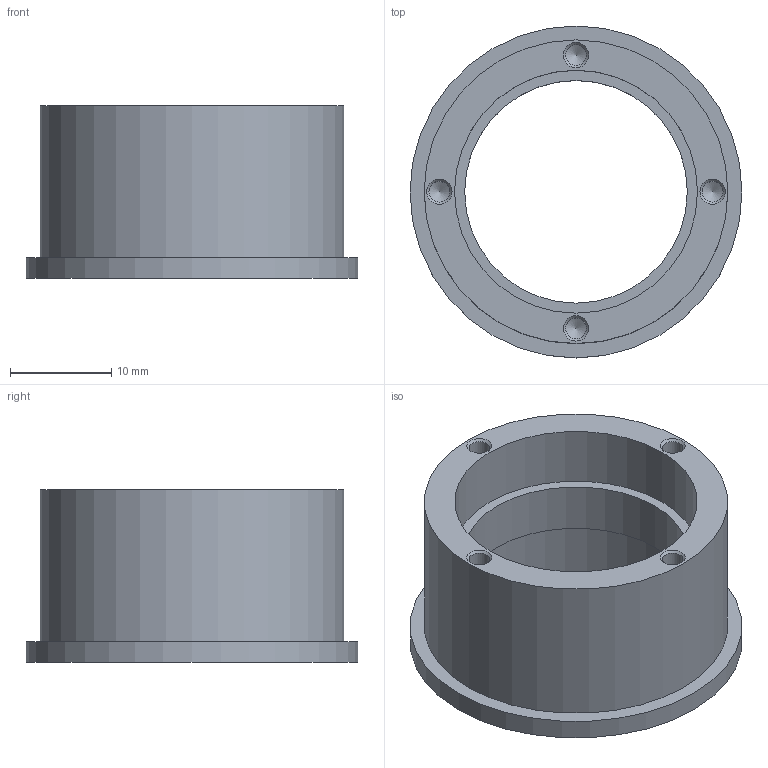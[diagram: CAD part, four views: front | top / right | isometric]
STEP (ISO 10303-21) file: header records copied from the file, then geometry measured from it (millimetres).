
FILE_DESCRIPTION(/* description */ (''),/* implementation_level */ '2;1');
FILE_NAME(/* name */ 'ri60加霍尔测试内转子.stp',/* time_stamp */ '2022-11-08T11:27:23+08:00',/* author */ (''),/* organization */ (''),/* preprocessor_version */ 'ST-DEVELOPER v16.7',/* originating_system */ 'SIEMENS PLM Software NX 12.0',/* authorisation */ '');
FILE_SCHEMA (('AUTOMOTIVE_DESIGN { 1 0 10303 214 3 1 1 1 }'));
Length unit declared in the file: millimetre
Products named in the file (1): ri60工装2
Bounding box: 32.8 x 32.8 x 17 mm (x, y, z)
Volume: 4894 mm3; surface area: 3927.7 mm2
Topology: 1 solids, 1 shells, 22 faces, 48 edges, 31 vertices
Faces by surface type: cylinder 9, cone 8, plane 5
Full cylindrical faces by diameter (mm): 2.05 x4, 22 x1, 24 x2, 30 x1, 32.8 x1
Entity records: 488 total; most frequent: DIRECTION 90, CARTESIAN_POINT 71, FACE_BOUND 48, AXIS2_PLACEMENT_3D 45, EDGE_LOOP 44, ORIENTED_EDGE 44, VERTEX_POINT 26, ADVANCED_FACE 22
